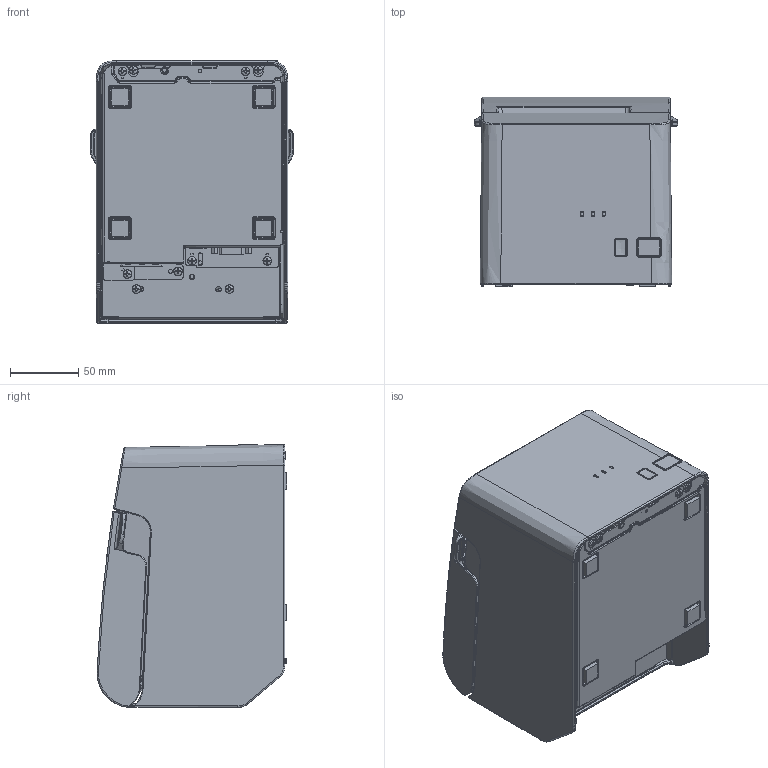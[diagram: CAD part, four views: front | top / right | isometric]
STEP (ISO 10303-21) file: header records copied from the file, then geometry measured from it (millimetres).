
FILE_DESCRIPTION((''),'2;1');
FILE_NAME('TM-T20X2_CLOSE','2025-01-15T16:57:48',('5012938'),(''),'CREO PARAMETRIC BY PTC INC, 2022281','CREO PARAMETRIC BY PTC INC, 2022281','');
FILE_SCHEMA(('AUTOMOTIVE_DESIGN { 1 0 10303 214 1 1 1 1 }'));
Products named in the file (1): TM-T20X2_CLOSE
Bounding box: 148.4 x 138.63 x 192 mm (x, y, z)
Surface area: 484123.8 mm2 (no closed solid volume)
Topology: 0 solids, 51 shells, 4500 faces, 12518 edges, 8043 vertices
Faces by surface type: plane 2194, cylinder 1661, bspline 383, torus 105, cone 100, sphere 43, extrusion 12, revolution 2
Entity records: 199548 total; most frequent: CARTESIAN_POINT 86738, ORIENTED_EDGE 23854, DIRECTION 22559, EDGE_CURVE 12508, VERTEX_POINT 8043, AXIS2_PLACEMENT_3D 7637, VECTOR 7283, LINE 7271
